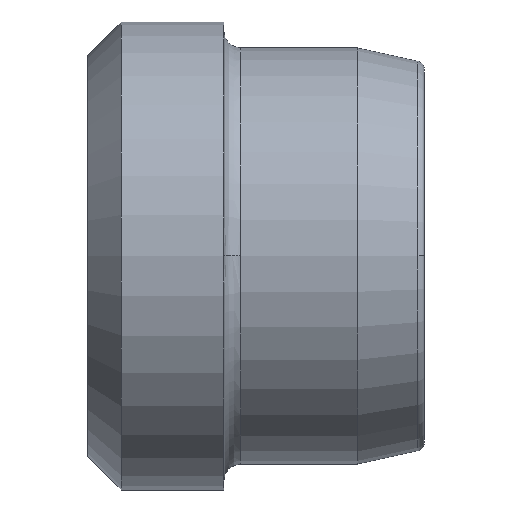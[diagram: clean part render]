
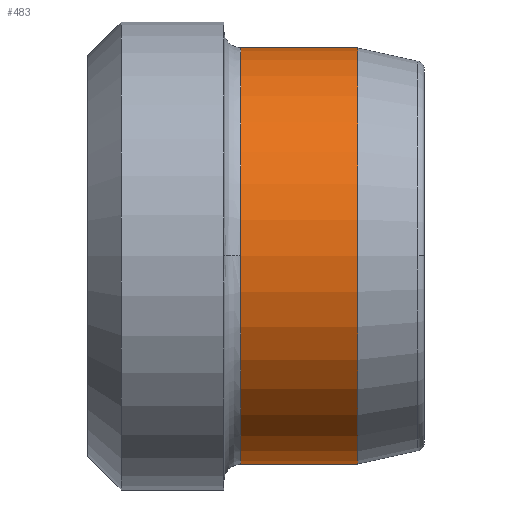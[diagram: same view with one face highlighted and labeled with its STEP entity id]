
A CAD part, top view. The second image highlights one B-rep face of the part: STEP entity #483.
In plain terms, the highlighted cylindrical face has radius 6.225 mm (diameter 12.45 mm), a partial arc.
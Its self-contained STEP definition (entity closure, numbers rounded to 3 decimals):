
#433=CARTESIAN_POINT('',(0.75,-0.633,0.0));
#434=DIRECTION('',(1.0,0.0,0.0));
#435=DIRECTION('',(0.0,1.0,0.0));
#436=AXIS2_PLACEMENT_3D('',#433,#434,#435);
#437=CYLINDRICAL_SURFACE('',#436,6.225);
#438=CARTESIAN_POINT('',(-0.75,5.592,0.0));
#439=VERTEX_POINT('',#438);
#440=CARTESIAN_POINT('',(2.75,5.592,0.0));
#441=VERTEX_POINT('',#440);
#442=CARTESIAN_POINT('',(-0.75,5.592,0.0));
#443=DIRECTION('',(1.0,0.0,0.0));
#444=VECTOR('',#443,3.5);
#445=LINE('',#442,#444);
#446=EDGE_CURVE('',#439,#441,#445,.T.);
#447=ORIENTED_EDGE('',*,*,#446,.F.);
#448=CARTESIAN_POINT('',(-0.75,-0.633,6.225));
#449=VERTEX_POINT('',#448);
#450=CARTESIAN_POINT('',(-0.75,-0.633,0.0));
#451=DIRECTION('',(-1.0,0.0,0.0));
#452=DIRECTION('',(0.0,-1.0,0.0));
#453=AXIS2_PLACEMENT_3D('',#450,#451,#452);
#454=CIRCLE('',#453,6.225);
#455=EDGE_CURVE('',#449,#439,#454,.T.);
#456=ORIENTED_EDGE('',*,*,#455,.F.);
#457=CARTESIAN_POINT('',(-0.75,-6.858,0.));
#458=VERTEX_POINT('',#457);
#459=CARTESIAN_POINT('',(-0.75,-0.633,0.0));
#460=DIRECTION('',(-1.0,0.0,0.0));
#461=DIRECTION('',(0.0,-1.0,0.0));
#462=AXIS2_PLACEMENT_3D('',#459,#460,#461);
#463=CIRCLE('',#462,6.225);
#464=EDGE_CURVE('',#458,#449,#463,.T.);
#465=ORIENTED_EDGE('',*,*,#464,.F.);
#466=CARTESIAN_POINT('',(2.75,-6.858,0.));
#467=VERTEX_POINT('',#466);
#468=CARTESIAN_POINT('',(2.75,-6.858,0.));
#469=DIRECTION('',(-1.0,0.0,0.0));
#470=VECTOR('',#469,3.5);
#471=LINE('',#468,#470);
#472=EDGE_CURVE('',#467,#458,#471,.T.);
#473=ORIENTED_EDGE('',*,*,#472,.F.);
#474=CARTESIAN_POINT('',(2.75,-0.633,0.0));
#475=DIRECTION('',(1.0,0.0,0.0));
#476=DIRECTION('',(0.0,1.0,0.0));
#477=AXIS2_PLACEMENT_3D('',#474,#475,#476);
#478=CIRCLE('',#477,6.225);
#479=EDGE_CURVE('',#441,#467,#478,.T.);
#480=ORIENTED_EDGE('',*,*,#479,.F.);
#481=EDGE_LOOP('',(#447,#456,#465,#473,#480));
#482=FACE_OUTER_BOUND('',#481,.T.);
#483=ADVANCED_FACE('',(#482),#437,.T.);
